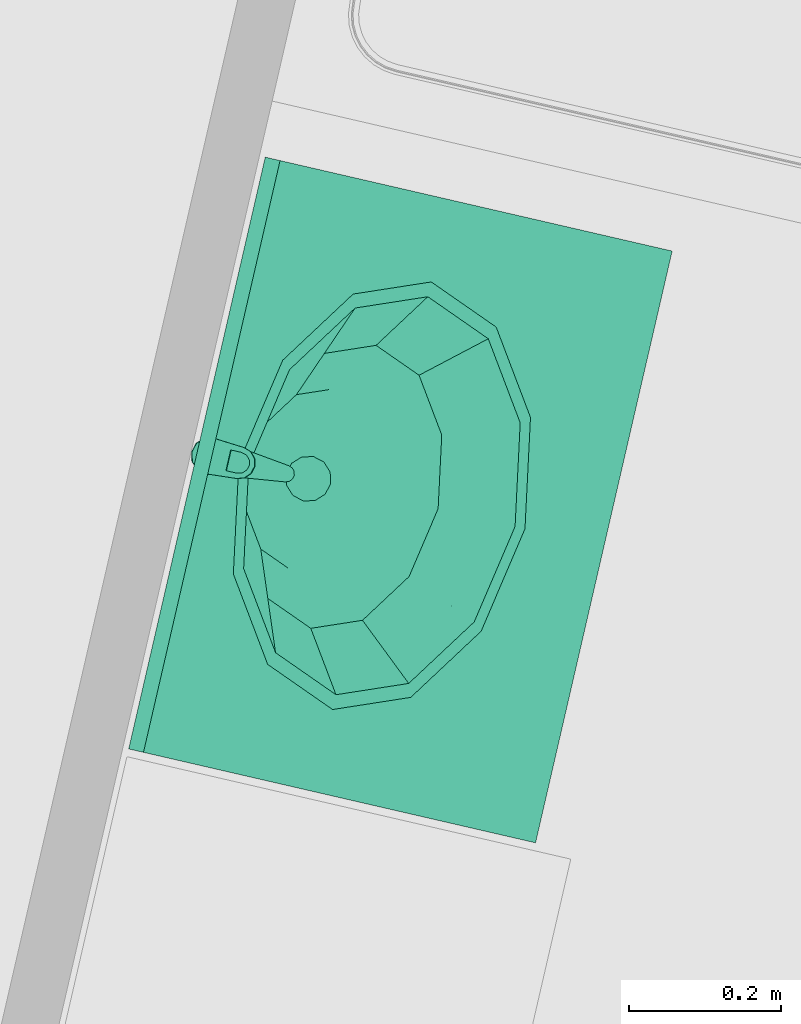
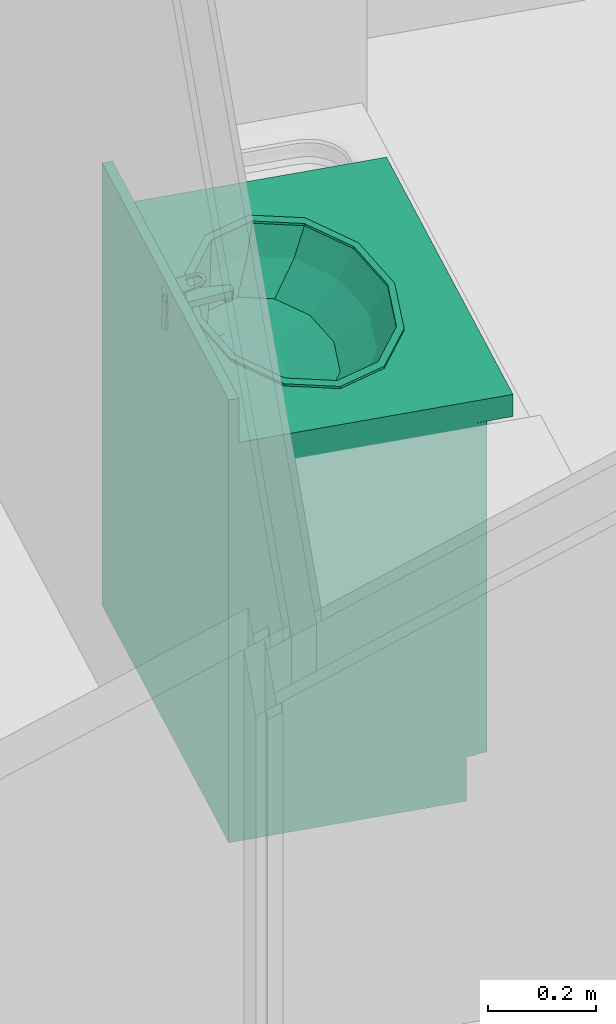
# One storey, part 73 of 90: 1 flow terminal.
"""IFC2X3 building model written with IfcOpenShell, lengths in metres."""

import ifcopenshell
import ifcopenshell.guid

model = None  # the IFC model being written
_history = None  # IfcOwnerHistory: only IFC2X3 demands one
_inside = {}  # id of a spatial element -> (the spatial element, [elements in it])
_under = {}  # id of a project, library or spatial element -> (it, [spatial elements below it])
_declared = {}  # id of a project -> (the project, [libraries it declares])
_typed = {}  # id of a type object -> (the type object, [elements of that type])
_made_of = {}  # id of a material, layer set ... -> (it, [elements and type objects made of it])


def new_model(schema):
    """Start an empty IFC model of exactly this schema.

    Asked for "IFC4X3", IfcOpenShell would pick the latest addendum, in which some entities
    have other attributes; the version numbers below select the first issue.
    IFC2X3 requires an IfcOwnerHistory on every rooted entity: one is made here for all.
    """
    global model, _history
    if schema == "IFC4X3":
        model = ifcopenshell.file(schema_version=(4, 3, 0, 0))
    else:
        model = ifcopenshell.file(schema=schema)
    _inside.clear()
    _under.clear()
    _declared.clear()
    _typed.clear()
    _made_of.clear()
    _history = None
    if model.schema == "IFC2X3":
        org = make("IfcOrganization", Name="unknown")
        user = make(
            "IfcPersonAndOrganization",
            ThePerson=make("IfcPerson", FamilyName="unknown"),
            TheOrganization=org,
        )
        app = make(
            "IfcApplication",
            ApplicationDeveloper=org,
            Version="unknown",
            ApplicationFullName="unknown",
            ApplicationIdentifier="unknown",
        )
        _history = make(
            "IfcOwnerHistory",
            OwningUser=user,
            OwningApplication=app,
            ChangeAction="ADDED",
            CreationDate=0,
        )
    return model


def make(cls, **values):
    """One entity of the class cls with the attributes given. An attribute that is None is left unset."""
    return model.create_entity(
        cls, **{name: value for name, value in values.items() if value is not None}
    )


def entity(cls, *values):
    """Any entity or typed value of the class cls, its attributes in the order of the schema. None: left unset."""
    e = model.create_entity(cls)
    for i, value in enumerate(values):
        if value is not None:
            e[i] = value
    return e


def rooted(cls, **values):
    """An entity with a GlobalId (a new one), such as an element, a storey or a relation."""
    return make(cls, GlobalId=ifcopenshell.guid.new(), OwnerHistory=_history, **values)


def si_unit(unit_type, name, prefix=None):
    """IfcSIUnit, for example si_unit("LENGTHUNIT", "METRE", prefix="MILLI")."""
    return make("IfcSIUnit", UnitType=unit_type, Prefix=prefix, Name=name)


def converted_unit(unit_type, name, factor, base, dimensions=None, offset=None):
    """IfcConversionBasedUnit, such as the inch: factor (a typed value) times the base unit."""
    return make(
        "IfcConversionBasedUnit"
        if offset is None
        else "IfcConversionBasedUnitWithOffset",
        ConversionOffset=offset,
        Dimensions=None
        if dimensions is None
        else entity("IfcDimensionalExponents", *dimensions),
        UnitType=unit_type,
        Name=name,
        ConversionFactor=make(
            "IfcMeasureWithUnit", ValueComponent=factor, UnitComponent=base
        ),
    )


def derived_unit(unit_type, elements):
    """IfcDerivedUnit: a product of units, each with its exponent."""
    return make(
        "IfcDerivedUnit",
        Elements=[
            make("IfcDerivedUnitElement", Unit=unit, Exponent=power)
            for unit, power in elements
        ],
        UnitType=unit_type,
    )


def money_unit(currency):
    """IfcMonetaryUnit."""
    return make("IfcMonetaryUnit", Currency=currency)


def assignment(units):
    """IfcUnitAssignment: the units of a project."""
    return None if units is None else make("IfcUnitAssignment", Units=units)


def point(xyz):
    """IfcCartesianPoint."""
    return None if xyz is None else make("IfcCartesianPoint", Coordinates=xyz)


def direction(xyz):
    """IfcDirection."""
    return None if xyz is None else make("IfcDirection", DirectionRatios=xyz)


def frame(location, z_axis=None, x_axis=None):
    """IfcAxis2Placement3D, a coordinate frame: its origin and axes. An axis left out is left unset."""
    return make(
        "IfcAxis2Placement3D",
        Location=point(location),
        Axis=direction(z_axis),
        RefDirection=direction(x_axis),
    )


def origin_with_axes():
    """The frame at (0, 0, 0) with the z axis (0, 0, 1) and the x axis (1, 0, 0) written out."""
    return frame((0.0, 0.0, 0.0), z_axis=(0.0, 0.0, 1.0), x_axis=(1.0, 0.0, 0.0))


def place(relative_to, where):
    """IfcLocalPlacement: puts the frame where relative to a parent placement (None: the world)."""
    return make(
        "IfcLocalPlacement", PlacementRelTo=relative_to, RelativePlacement=where
    )


def context(
    kind, dimensions, precision=None, world=None, true_north=None, identifier=None
):
    """IfcGeometricRepresentationContext, for example the 3D "Model" context."""
    return make(
        "IfcGeometricRepresentationContext",
        ContextIdentifier=identifier,
        ContextType=kind,
        CoordinateSpaceDimension=dimensions,
        Precision=precision,
        WorldCoordinateSystem=world,
        TrueNorth=true_north,
    )


def subcontext(parent, identifier, kind, view, scale=None):
    """IfcGeometricRepresentationSubContext, for example "Body" below "Model"."""
    return make(
        "IfcGeometricRepresentationSubContext",
        ContextIdentifier=identifier,
        ContextType=kind,
        ParentContext=parent,
        TargetScale=scale,
        TargetView=view,
    )


def project(units=None, contexts=None):
    """IfcProject with its units and contexts."""
    return rooted(
        "IfcProject",
        Name="project",
        RepresentationContexts=contexts,
        UnitsInContext=assignment(units),
    )


def spatial(cls, under=None, at=None, **own):
    """A site, building, storey or space (cls), placed at a placement, below another one or the project."""
    s = rooted(cls, ObjectPlacement=at, **own)
    if under is not None:
        _under.setdefault(under.id(), (under, []))[1].append(s)
    return s


def faces_of(points, faces, orient=None, outer=None):
    """IfcFace entities. A face is a list of loops; a loop is a list of indices into points, from 0.

    orient and outer hold one flag for each loop. By default every Orientation is true, the
    first loop of a face is its IfcFaceOuterBound and the others are IfcFaceBound.
    """
    made = []
    for i, loops in enumerate(faces):
        bounds = []
        for j, loop in enumerate(loops):
            is_outer = j == 0 if outer is None else outer[i][j]
            bounds.append(
                make(
                    "IfcFaceOuterBound" if is_outer else "IfcFaceBound",
                    Bound=make("IfcPolyLoop", Polygon=[points[k] for k in loop]),
                    Orientation=True if orient is None else orient[i][j],
                )
            )
        made.append(make("IfcFace", Bounds=bounds))
    return made


def open_shell(faces, orient=None, outer=None):
    """The faces of one IfcOpenShell. surface_model builds it on its shared points."""
    return ("IfcOpenShell", faces, orient, outer)


def faceted_brep(points, faces, orient=None, outer=None, voids=None):
    """IfcFacetedBrep: a solid bounded by flat faces; with voids (closed shells), ...WithVoids."""
    shared = [point(p) for p in points]
    hull = make("IfcClosedShell", CfsFaces=faces_of(shared, faces, orient, outer))
    if voids is None:
        return make("IfcFacetedBrep", Outer=hull)
    return make(
        "IfcFacetedBrepWithVoids",
        Outer=hull,
        Voids=[
            make(cls, CfsFaces=faces_of(shared, fs, o, b)) for cls, fs, o, b in voids
        ],
    )


def surface_model(cls, points, shells):
    """IfcFaceBasedSurfaceModel or IfcShellBasedSurfaceModel (cls): surfaces that need not close."""
    shared = [point(p) for p in points]
    made = [make(c, CfsFaces=faces_of(shared, fs, o, b)) for c, fs, o, b in shells]
    if cls == "IfcFaceBasedSurfaceModel":
        return make(cls, FbsmFaces=made)
    return make(cls, SbsmBoundary=made)


def shape(context_of_items, identifier, shape_type, items):
    """IfcShapeRepresentation: the items that make up one representation, for example the "Body"."""
    return make(
        "IfcShapeRepresentation",
        ContextOfItems=context_of_items,
        RepresentationIdentifier=identifier,
        RepresentationType=shape_type,
        Items=items,
    )


def source(mapping_origin, context_of_items, identifier, shape_type, items):
    """IfcRepresentationMap: a shape defined once, which mapped items show again and again."""
    return make(
        "IfcRepresentationMap",
        MappingOrigin=mapping_origin,
        MappedRepresentation=shape(context_of_items, identifier, shape_type, items),
    )


def transform(
    local_origin,
    x_axis=None,
    y_axis=None,
    z_axis=None,
    scale=None,
    scale2=None,
    scale3=None,
    uniform=True,
):
    """IfcCartesianTransformationOperator3D, or its non-uniform kind. x_axis, y_axis, z_axis: its Axis1, 2, 3."""
    if uniform:
        return make(
            "IfcCartesianTransformationOperator3D",
            Axis1=direction(x_axis),
            Axis2=direction(y_axis),
            LocalOrigin=point(local_origin),
            Scale=scale,
            Axis3=direction(z_axis),
        )
    return make(
        "IfcCartesianTransformationOperator3DnonUniform",
        Axis1=direction(x_axis),
        Axis2=direction(y_axis),
        LocalOrigin=point(local_origin),
        Scale=scale,
        Axis3=direction(z_axis),
        Scale2=scale2,
        Scale3=scale3,
    )


def mapped(mapping_source, mapping_target):
    """IfcMappedItem: shows the shape of a source again, moved by a transform."""
    return make(
        "IfcMappedItem", MappingSource=mapping_source, MappingTarget=mapping_target
    )


def made_of(thing, what):
    """Note that an element or type object is made of a material, layer set ...; save() writes the relation."""
    if what is not None:
        _made_of.setdefault(what.id(), (what, []))[1].append(thing)
    return thing


def type_object(cls, material=None, **own):
    """A type object (cls), such as IfcWallType, which elements share."""
    return made_of(rooted(cls, **own), material)


def element(
    cls,
    number,
    at=None,
    inside=None,
    cuts=None,
    type_object=None,
    material=None,
    context=None,
    identifier="Body",
    shape_type=None,
    held_by="IfcProductDefinitionShape",
    body=None,
    shapes=None,
    **own,
):
    """One element of the class cls, such as IfcWall. Its Tag is "e" and its number.

    at: its placement. inside: the storey or other place that contains it. cuts: it is an
    opening in that element (IfcRelVoidsElement). A single representation is given by context,
    identifier, shape_type and body (its items); several are given by shapes. held_by: the class
    of the entity that holds the representations. save() writes the other relations.
    """
    e = rooted(cls, Tag="e%d" % number, ObjectPlacement=at, **own)
    if body is not None:
        shapes = [shape(context, identifier, shape_type, body)]
    if shapes is not None:
        e.Representation = make(held_by, Representations=shapes)
    if inside is not None:
        _inside.setdefault(inside.id(), (inside, []))[1].append(e)
    if cuts is not None:
        rooted(
            "IfcRelVoidsElement", RelatingBuildingElement=cuts, RelatedOpeningElement=e
        )
    if type_object is not None:
        _typed.setdefault(type_object.id(), (type_object, []))[1].append(e)
    return made_of(e, material)


def aggregate(whole, parts):
    """IfcRelAggregates: a whole, such as a stair, and the parts it consists of."""
    return rooted("IfcRelAggregates", RelatingObject=whole, RelatedObjects=parts)


def save(model, path):
    """Write the relations noted so far, then the file.

    IfcRelAggregates (storeys below a building ...), IfcRelContainedInSpatialStructure (elements
    in a storey), IfcRelDefinesByType, IfcRelAssociatesMaterial and IfcRelDeclares: one each for
    every whole, place, type object, material and project.
    """
    for whole, parts in _under.values():
        aggregate(whole, parts)
    for where, things in _inside.values():
        rooted(
            "IfcRelContainedInSpatialStructure",
            RelatedElements=things,
            RelatingStructure=where,
        )
    for kind, things in _typed.values():
        rooted("IfcRelDefinesByType", RelatedObjects=things, RelatingType=kind)
    for what, things in _made_of.values():
        rooted("IfcRelAssociatesMaterial", RelatedObjects=things, RelatingMaterial=what)
    for by, libraries in _declared.values():
        rooted("IfcRelDeclares", RelatingContext=by, RelatedDefinitions=libraries)
    model.write(path)


model = new_model("IFC2X3")

# Units and contexts
model_context = context("Model", 3, precision=1e-05, world=origin_with_axes(), true_north=direction((0.0, 1.0)))
body_context = subcontext(model_context, "Body", "Model", "MODEL_VIEW")
ifc_project = project(units=[si_unit("LENGTHUNIT", "METRE"), si_unit("AREAUNIT", "SQUARE_METRE"), si_unit("VOLUMEUNIT", "CUBIC_METRE"), converted_unit("PLANEANGLEUNIT", "DEGREE", entity("IfcPlaneAngleMeasure", 0.0174532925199), si_unit("PLANEANGLEUNIT", "RADIAN"), dimensions=[0, 0, 0, 0, 0, 0, 0]), si_unit("SOLIDANGLEUNIT", "STERADIAN"), money_unit("EUR"), converted_unit("TIMEUNIT", "Year", entity("IfcTimeMeasure", 31556926.0), si_unit("TIMEUNIT", "SECOND"), dimensions=[0, 0, 1, 0, 0, 0, 0]), si_unit("MASSUNIT", "GRAM", prefix="KILO"), si_unit("THERMODYNAMICTEMPERATUREUNIT", "DEGREE_CELSIUS"), si_unit("LUMINOUSINTENSITYUNIT", "LUMEN"), si_unit("ENERGYUNIT", "JOULE", prefix="MEGA"), derived_unit("THERMALCONDUCTANCEUNIT", [(si_unit("POWERUNIT", "WATT"), 1), (si_unit("LENGTHUNIT", "METRE"), -1), (si_unit("THERMODYNAMICTEMPERATUREUNIT", "KELVIN"), -1)]), derived_unit("SPECIFICHEATCAPACITYUNIT", [(si_unit("ENERGYUNIT", "JOULE"), 1), (si_unit("MASSUNIT", "GRAM", prefix="KILO"), -1), (si_unit("THERMODYNAMICTEMPERATUREUNIT", "KELVIN"), -1)]), derived_unit("MASSDENSITYUNIT", [(si_unit("MASSUNIT", "GRAM", prefix="KILO"), 1), (si_unit("VOLUMEUNIT", "CUBIC_METRE"), -1)])], contexts=[model_context])

# Site, building, storey
site_placement = place(None, origin_with_axes())
site = spatial("IfcSite", under=ifc_project, at=site_placement, Name="Site", CompositionType="ELEMENT")
building_placement = place(site_placement, origin_with_axes())
building = spatial("IfcBuilding", under=site, at=building_placement, Name="Bâtiment", CompositionType="ELEMENT")
storey_placement = place(building_placement, frame((0.0, 0.0, 2.72), z_axis=(0.0, 0.0, 1.0), x_axis=(1.0, 0.0, 0.0)))
storey = spatial("IfcBuildingStorey", under=building, at=storey_placement, Name="R+1", CompositionType="ELEMENT", Elevation=2.72)

# Flow terminal
sanitary_terminal_type = type_object("IfcSanitaryTerminalType", Name="Lavabo sur meuble 23", PredefinedType="NOTDEFINED")
shared_shape = source(origin_with_axes(), body_context, "Body", "SurfaceModel", [
    faceted_brep([(0.0, 0.09, 0.0), (0.8, 0.09, 0.0), (0.8, 0.09, 0.1), (0.0, 0.09, 0.1), (0.0, 0.55, 0.0), (0.8, 0.55, 0.0), (0.8, 0.55, 0.1), (0.0, 0.55, 0.1)], [[[0, 1, 2, 3]], [[0, 4, 5, 1]], [[1, 5, 6, 2]], [[3, 2, 6, 7]], [[4, 0, 3, 7]], [[5, 4, 7, 6]]]),
    faceted_brep([(0.0, 0.07, 0.1), (0.02, 0.07, 0.1), (0.02, 0.07, 0.12), (0.0, 0.07, 0.12), (0.0, 0.55, 0.1), (0.02, 0.55, 0.1), (0.78, 0.55, 0.1), (0.8, 0.55, 0.1), (0.8, 0.07, 0.1), (0.78, 0.07, 0.1), (0.78, 0.07, 0.12), (0.8, 0.07, 0.12), (0.8, 0.55, 0.12), (0.78, 0.55, 0.12), (0.02, 0.55, 0.12), (0.0, 0.55, 0.12)], [[[0, 1, 2, 3]], [[0, 4, 5, 6, 7, 8, 9, 1]], [[1, 9, 10, 2]], [[3, 2, 10, 11, 12, 13, 14, 15]], [[4, 0, 3, 15]], [[5, 4, 15, 14]], [[6, 5, 14, 13]], [[7, 6, 13, 12]], [[8, 7, 12, 11]], [[9, 8, 11, 10]]]),
    faceted_brep([(0.0, 0.07, 0.12), (0.02, 0.07, 0.12), (0.02, 0.07, 0.85), (0.0, 0.07, 0.85), (0.0, 0.55, 0.12), (0.8, 0.55, 0.12), (0.8, 0.07, 0.12), (0.78, 0.07, 0.12), (0.78, 0.53, 0.12), (0.02, 0.53, 0.12), (0.02, 0.53, 0.85), (0.78, 0.53, 0.85), (0.78, 0.07, 0.85), (0.8, 0.07, 0.85), (0.8, 0.55, 0.85), (0.0, 0.55, 0.85)], [[[0, 1, 2, 3]], [[0, 4, 5, 6, 7, 8, 9, 1]], [[1, 9, 10, 2]], [[3, 2, 10, 11, 12, 13, 14, 15]], [[4, 0, 3, 15]], [[5, 4, 15, 14]], [[6, 5, 14, 13]], [[7, 6, 13, 12]], [[8, 7, 12, 11]], [[9, 8, 11, 10]]]),
    faceted_brep([(0.78, 0.07, 0.323333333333), (0.78, 0.53, 0.323333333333), (0.78, 0.53, 0.343333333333), (0.78, 0.07, 0.343333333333), (0.02, 0.07, 0.323333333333), (0.02, 0.53, 0.323333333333), (0.02, 0.53, 0.343333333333), (0.02, 0.07, 0.343333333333)], [[[0, 1, 2, 3]], [[0, 4, 5, 1]], [[1, 5, 6, 2]], [[3, 2, 6, 7]], [[4, 0, 3, 7]], [[5, 4, 7, 6]]]),
    faceted_brep([(0.78, 0.07, 0.566666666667), (0.78, 0.53, 0.566666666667), (0.78, 0.53, 0.586666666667), (0.78, 0.07, 0.586666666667), (0.02, 0.07, 0.566666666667), (0.02, 0.53, 0.566666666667), (0.02, 0.53, 0.586666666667), (0.02, 0.07, 0.586666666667)], [[[0, 1, 2, 3]], [[0, 4, 5, 1]], [[1, 5, 6, 2]], [[3, 2, 6, 7]], [[4, 0, 3, 7]], [[5, 4, 7, 6]]]),
    faceted_brep([(0.0, 0.55, 0.85), (0.8, 0.55, 0.85), (0.8, 0.0, 0.85), (0.0, 0.0, 0.85), (0.535, 0.144115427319, 0.85), (0.633826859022, 0.21, 0.85), (0.67, 0.3, 0.85), (0.633826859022, 0.39, 0.85), (0.535, 0.455884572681, 0.85), (0.4, 0.48, 0.85), (0.265, 0.455884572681, 0.85), (0.166173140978, 0.39, 0.85), (0.13, 0.3, 0.85), (0.166173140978, 0.21, 0.85), (0.265, 0.144115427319, 0.85), (0.4, 0.12, 0.85), (0.0, 0.55, 0.9), (0.8, 0.55, 0.9), (0.8, 0.0, 0.9), (0.0, 0.0, 0.9), (0.535, 0.144115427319, 0.9), (0.633826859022, 0.21, 0.9), (0.67, 0.3, 0.9), (0.633826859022, 0.39, 0.9), (0.535, 0.455884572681, 0.9), (0.4, 0.48, 0.9), (0.265, 0.455884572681, 0.9), (0.166173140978, 0.39, 0.9), (0.13, 0.3, 0.9), (0.166173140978, 0.21, 0.9), (0.265, 0.144115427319, 0.9), (0.4, 0.12, 0.9)], [[[0, 1, 2, 3], [4, 5, 6, 7, 8, 9, 10, 11, 12, 13, 14, 15]], [[0, 16, 17, 1]], [[1, 17, 18, 2]], [[2, 18, 19, 3]], [[3, 19, 16, 0]], [[20, 21, 5, 4]], [[21, 22, 6, 5]], [[22, 23, 7, 6]], [[23, 24, 8, 7]], [[24, 25, 9, 8]], [[25, 26, 10, 9]], [[26, 27, 11, 10]], [[27, 28, 12, 11]], [[28, 29, 13, 12]], [[29, 30, 14, 13]], [[30, 31, 15, 14]], [[31, 20, 4, 15]], [[18, 17, 16, 19], [24, 23, 22, 21, 20, 31, 30, 29, 28, 27, 26, 25]]]),
    faceted_brep([(0.0, 0.53, 0.9), (0.8, 0.53, 0.9), (0.8, 0.53, 1.0), (0.0, 0.53, 1.0), (0.0, 0.55, 0.9), (0.8, 0.55, 0.9), (0.8, 0.55, 1.0), (0.0, 0.55, 1.0)], [[[0, 1, 2, 3]], [[0, 4, 5, 1]], [[1, 5, 6, 2]], [[3, 2, 6, 7]], [[4, 0, 3, 7]], [[5, 4, 7, 6]]]),
    faceted_brep([(0.689, 0.3, 0.905), (0.689, 0.3, 0.9), (0.650281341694, 0.396691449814, 0.9), (0.650281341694, 0.396691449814, 0.905), (0.650281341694, 0.203308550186, 0.905), (0.650281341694, 0.203308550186, 0.9), (0.5445, 0.132525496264, 0.9), (0.4, 0.106617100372, 0.9), (0.2555, 0.132525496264, 0.9), (0.149718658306, 0.203308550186, 0.9), (0.111, 0.3, 0.9), (0.149718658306, 0.396691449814, 0.9), (0.2555, 0.467474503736, 0.9), (0.4, 0.493382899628, 0.9), (0.5445, 0.467474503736, 0.9), (0.669, 0.3, 0.9), (0.632960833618, 0.39, 0.9), (0.5345, 0.455884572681, 0.9), (0.4, 0.48, 0.9), (0.2655, 0.455884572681, 0.9), (0.167039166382, 0.39, 0.9), (0.131, 0.3, 0.9), (0.167039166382, 0.21, 0.9), (0.2655, 0.144115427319, 0.9), (0.4, 0.12, 0.9), (0.5345, 0.144115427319, 0.9), (0.632960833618, 0.21, 0.9), (0.5445, 0.467474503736, 0.905), (0.4, 0.493382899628, 0.905), (0.2555, 0.467474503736, 0.905), (0.149718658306, 0.396691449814, 0.905), (0.111, 0.3, 0.905), (0.149718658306, 0.203308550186, 0.905), (0.2555, 0.132525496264, 0.905), (0.4, 0.106617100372, 0.905), (0.5445, 0.132525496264, 0.905), (0.669, 0.3, 0.905), (0.632960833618, 0.21, 0.905), (0.5345, 0.144115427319, 0.905), (0.4, 0.12, 0.905), (0.2655, 0.144115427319, 0.905), (0.167039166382, 0.21, 0.905), (0.131, 0.3, 0.905), (0.167039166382, 0.39, 0.905), (0.2655, 0.455884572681, 0.905), (0.4, 0.48, 0.905), (0.5345, 0.455884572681, 0.905), (0.632960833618, 0.39, 0.905)], [[[0, 1, 2, 3]], [[4, 5, 1, 0]], [[1, 5, 6, 7, 8, 9, 10, 11, 12, 13, 14, 2], [15, 16, 17, 18, 19, 20, 21, 22, 23, 24, 25, 26]], [[3, 2, 14, 27]], [[0, 3, 27, 28, 29, 30, 31, 32, 33, 34, 35, 4], [36, 37, 38, 39, 40, 41, 42, 43, 44, 45, 46, 47]], [[35, 6, 5, 4]], [[34, 7, 6, 35]], [[33, 8, 7, 34]], [[32, 9, 8, 33]], [[31, 10, 9, 32]], [[30, 11, 10, 31]], [[29, 12, 11, 30]], [[28, 13, 12, 29]], [[27, 14, 13, 28]], [[47, 16, 15, 36]], [[46, 17, 16, 47]], [[45, 18, 17, 46]], [[44, 19, 18, 45]], [[43, 20, 19, 44]], [[42, 21, 20, 43]], [[41, 22, 21, 42]], [[40, 23, 22, 41]], [[39, 24, 23, 40]], [[38, 25, 24, 39]], [[37, 26, 25, 38]], [[36, 15, 26, 37]]]),
    surface_model("IfcShellBasedSurfaceModel", [(0.4, 0.48, 0.9), (0.4, 0.48, 0.848), (0.52105, 0.458296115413, 0.848), (0.5345, 0.455884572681, 0.9), (0.2655, 0.455884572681, 0.9), (0.27895, 0.458296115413, 0.848), (0.609664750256, 0.399, 0.848), (0.632960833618, 0.39, 0.9), (0.167039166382, 0.39, 0.9), (0.190335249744, 0.399, 0.848), (0.6421, 0.318, 0.848), (0.669, 0.3, 0.9), (0.131, 0.3, 0.9), (0.1579, 0.318, 0.848), (0.609664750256, 0.237, 0.848), (0.632960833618, 0.21, 0.9), (0.167039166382, 0.21, 0.9), (0.190335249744, 0.237, 0.848), (0.52105, 0.177703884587, 0.848), (0.5345, 0.144115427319, 0.9), (0.2655, 0.144115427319, 0.9), (0.27895, 0.177703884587, 0.848), (0.4, 0.156, 0.848), (0.4, 0.12, 0.9)], [open_shell([[[0, 1, 2, 3]], [[4, 5, 1, 0]], [[3, 2, 6, 7]], [[8, 9, 5, 4]], [[7, 6, 10, 11]], [[12, 13, 9, 8]], [[11, 10, 14, 15]], [[16, 17, 13, 12]], [[15, 14, 18, 19]], [[20, 21, 17, 16]], [[19, 18, 22, 23]], [[23, 22, 21, 20]]])]),
    surface_model("IfcShellBasedSurfaceModel", [(0.4, 0.48, 0.848), (0.4, 0.48, 0.796), (0.4956295, 0.462853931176, 0.796), (0.52105, 0.458296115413, 0.848), (0.27895, 0.458296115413, 0.848), (0.3043705, 0.462853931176, 0.796), (0.565635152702, 0.41601, 0.796), (0.609664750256, 0.399, 0.848), (0.190335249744, 0.399, 0.848), (0.234364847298, 0.41601, 0.796), (0.591259, 0.35202, 0.796), (0.6421, 0.318, 0.848), (0.1579, 0.318, 0.848), (0.208741, 0.35202, 0.796), (0.565635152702, 0.28803, 0.796), (0.609664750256, 0.237, 0.848), (0.190335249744, 0.237, 0.848), (0.234364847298, 0.28803, 0.796), (0.4956295, 0.241186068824, 0.796), (0.52105, 0.177703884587, 0.848), (0.27895, 0.177703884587, 0.848), (0.3043705, 0.241186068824, 0.796), (0.4, 0.22404, 0.796), (0.4, 0.156, 0.848)], [open_shell([[[0, 1, 2, 3]], [[4, 5, 1, 0]], [[3, 2, 6, 7]], [[8, 9, 5, 4]], [[7, 6, 10, 11]], [[12, 13, 9, 8]], [[11, 10, 14, 15]], [[16, 17, 13, 12]], [[15, 14, 18, 19]], [[20, 21, 17, 16]], [[19, 18, 22, 23]], [[23, 22, 21, 20]]])]),
    surface_model("IfcShellBasedSurfaceModel", [(0.4, 0.48, 0.796), (0.4, 0.48, 0.77), (0.460246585, 0.469197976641, 0.77), (0.4956295, 0.462853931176, 0.796), (0.3043705, 0.462853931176, 0.796), (0.339753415, 0.469197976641, 0.77), (0.504350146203, 0.4396863, 0.77), (0.565635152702, 0.41601, 0.796), (0.234364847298, 0.41601, 0.796), (0.295649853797, 0.4396863, 0.77), (0.52049317, 0.3993726, 0.77), (0.591259, 0.35202, 0.796), (0.208741, 0.35202, 0.796), (0.27950683, 0.3993726, 0.77), (0.504350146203, 0.3590589, 0.77), (0.565635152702, 0.28803, 0.796), (0.234364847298, 0.28803, 0.796), (0.295649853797, 0.3590589, 0.77), (0.460246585, 0.329547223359, 0.77), (0.4956295, 0.241186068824, 0.796), (0.3043705, 0.241186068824, 0.796), (0.339753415, 0.329547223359, 0.77), (0.4, 0.3187452, 0.77), (0.4, 0.22404, 0.796)], [open_shell([[[0, 1, 2, 3]], [[4, 5, 1, 0]], [[3, 2, 6, 7]], [[8, 9, 5, 4]], [[7, 6, 10, 11]], [[12, 13, 9, 8]], [[11, 10, 14, 15]], [[16, 17, 13, 12]], [[15, 14, 18, 19]], [[20, 21, 17, 16]], [[19, 18, 22, 23]], [[23, 22, 21, 20]]])]),
    surface_model("IfcShellBasedSurfaceModel", [(0.4, 0.48, 0.77), (0.415, 0.425353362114, 0.763), (0.460246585, 0.469197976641, 0.77), (0.4, 0.4293726, 0.763), (0.425980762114, 0.4143726, 0.763), (0.339753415, 0.469197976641, 0.77), (0.504350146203, 0.4396863, 0.77), (0.385, 0.425353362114, 0.763), (0.43, 0.3993726, 0.763), (0.295649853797, 0.4396863, 0.77), (0.52049317, 0.3993726, 0.77), (0.374019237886, 0.4143726, 0.763), (0.425980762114, 0.3843726, 0.763), (0.27950683, 0.3993726, 0.77), (0.504350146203, 0.3590589, 0.77), (0.37, 0.3993726, 0.763), (0.415, 0.373391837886, 0.763), (0.295649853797, 0.3590589, 0.77), (0.460246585, 0.329547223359, 0.77), (0.374019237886, 0.3843726, 0.763), (0.4, 0.3693726, 0.763), (0.339753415, 0.329547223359, 0.77), (0.4, 0.3187452, 0.77), (0.385, 0.373391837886, 0.763)], [open_shell([[[0, 1, 2]], [[0, 3, 1]], [[2, 1, 4]], [[5, 3, 0]], [[2, 4, 6]], [[5, 7, 3]], [[6, 4, 8]], [[9, 7, 5]], [[6, 8, 10]], [[9, 11, 7]], [[10, 8, 12]], [[13, 11, 9]], [[10, 12, 14]], [[13, 15, 11]], [[14, 12, 16]], [[17, 15, 13]], [[14, 16, 18]], [[17, 19, 15]], [[18, 16, 20]], [[21, 19, 17]], [[18, 20, 22]], [[21, 23, 19]], [[22, 20, 23]], [[22, 23, 21]]])]),
    surface_model("IfcShellBasedSurfaceModel", [(0.43, 0.3993726, 0.763), (0.43, 0.3993726, 0.758), (0.425980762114, 0.4143726, 0.758), (0.425980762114, 0.4143726, 0.763), (0.425980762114, 0.3843726, 0.763), (0.425980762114, 0.3843726, 0.758), (0.415, 0.373391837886, 0.758), (0.4, 0.3693726, 0.758), (0.385, 0.373391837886, 0.758), (0.374019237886, 0.3843726, 0.758), (0.37, 0.3993726, 0.758), (0.374019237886, 0.4143726, 0.758), (0.385, 0.425353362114, 0.758), (0.4, 0.4293726, 0.758), (0.415, 0.425353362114, 0.758), (0.415, 0.425353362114, 0.763), (0.415, 0.373391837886, 0.763), (0.4, 0.3693726, 0.763), (0.385, 0.373391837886, 0.763), (0.374019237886, 0.3843726, 0.763), (0.37, 0.3993726, 0.763), (0.374019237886, 0.4143726, 0.763), (0.385, 0.425353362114, 0.763), (0.4, 0.4293726, 0.763)], [open_shell([[[0, 1, 2, 3]], [[4, 5, 1, 0]], [[1, 5, 6, 7, 8, 9, 10, 11, 12, 13, 14, 2]], [[3, 2, 14, 15]], [[16, 6, 5, 4]], [[17, 7, 6, 16]], [[18, 8, 7, 17]], [[19, 9, 8, 18]], [[20, 10, 9, 19]], [[21, 11, 10, 20]], [[22, 12, 11, 21]], [[23, 13, 12, 22]], [[15, 14, 13, 23]]])]),
    faceted_brep([(0.4125, 0.554150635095, 0.9), (0.4, 0.5575, 0.9), (0.4, 0.553701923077, 0.975961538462), (0.410587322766, 0.550837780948, 0.976507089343), (0.421650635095, 0.545, 0.9), (0.425, 0.5325, 0.9), (0.421650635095, 0.52, 0.9), (0.4125, 0.510849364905, 0.9), (0.4, 0.5075, 0.9), (0.3875, 0.510849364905, 0.9), (0.378349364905, 0.52, 0.9), (0.375, 0.5325, 0.9), (0.378349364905, 0.545, 0.9), (0.3875, 0.554150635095, 0.9), (0.389412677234, 0.550837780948, 0.976507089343), (0.381726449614, 0.543050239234, 0.977990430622), (0.379, 0.5325, 0.98), (0.381899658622, 0.522049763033, 0.981990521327), (0.389585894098, 0.514462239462, 0.983435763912), (0.4, 0.511698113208, 0.983962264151), (0.410414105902, 0.514462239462, 0.983435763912), (0.418100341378, 0.522049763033, 0.981990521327), (0.421, 0.5325, 0.98), (0.418273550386, 0.543050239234, 0.977990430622)], [[[0, 1, 2, 3]], [[0, 4, 5, 6, 7, 8, 9, 10, 11, 12, 13, 1]], [[1, 13, 14, 2]], [[3, 2, 14, 15, 16, 17, 18, 19, 20, 21, 22, 23]], [[4, 0, 3, 23]], [[5, 4, 23, 22]], [[6, 5, 22, 21]], [[7, 6, 21, 20]], [[8, 7, 20, 19]], [[9, 8, 19, 18]], [[10, 9, 18, 17]], [[11, 10, 17, 16]], [[12, 11, 16, 15]], [[13, 12, 15, 14]]]),
    faceted_brep([(0.409, 0.4295, 0.935), (0.407794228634, 0.434, 0.935), (0.407794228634, 0.434, 0.945), (0.409, 0.4295, 0.945), (0.407794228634, 0.425, 0.935), (0.4045, 0.421705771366, 0.935), (0.4, 0.4205, 0.935), (0.3955, 0.421705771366, 0.935), (0.392205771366, 0.425, 0.935), (0.391, 0.4295, 0.935), (0.392205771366, 0.434, 0.935), (0.3955, 0.437294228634, 0.935), (0.4, 0.4385, 0.935), (0.4045, 0.437294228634, 0.935), (0.4045, 0.437294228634, 0.945), (0.4, 0.4385, 0.945), (0.3955, 0.437294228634, 0.945), (0.392205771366, 0.434, 0.945), (0.391, 0.4295, 0.945), (0.392205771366, 0.425, 0.945), (0.3955, 0.421705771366, 0.945), (0.4, 0.4205, 0.945), (0.4045, 0.421705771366, 0.945), (0.407794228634, 0.425, 0.945)], [[[0, 1, 2, 3]], [[0, 4, 5, 6, 7, 8, 9, 10, 11, 12, 13, 1]], [[1, 13, 14, 2]], [[3, 2, 14, 15, 16, 17, 18, 19, 20, 21, 22, 23]], [[4, 0, 3, 23]], [[5, 4, 23, 22]], [[6, 5, 22, 21]], [[7, 6, 21, 20]], [[8, 7, 20, 19]], [[9, 8, 19, 18]], [[10, 9, 18, 17]], [[11, 10, 17, 16]], [[12, 11, 16, 15]], [[13, 12, 15, 14]]]),
    faceted_brep([(0.387128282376, 0.552756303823, 0.96), (0.378272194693, 0.54269320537, 0.96), (0.3761946, 0.5294501, 0.96), (0.389088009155, 0.428111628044, 0.96), (0.390971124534, 0.423216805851, 0.96), (0.394906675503, 0.419750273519, 0.96), (0.400000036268, 0.41850003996, 0.96), (0.405093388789, 0.419750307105, 0.96), (0.409028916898, 0.423216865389, 0.96), (0.410912, 0.4281117, 0.96), (0.423805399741, 0.529450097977, 0.96), (0.421727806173, 0.542693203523, 0.96), (0.412871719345, 0.552756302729, 0.96), (0.40000000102, 0.556499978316, 0.96), (0.411, 0.551552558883, 0.96), (0.419052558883, 0.5435, 0.96), (0.422, 0.5325, 0.96), (0.419052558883, 0.5215, 0.96), (0.411, 0.513447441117, 0.96), (0.4, 0.5105, 0.96), (0.389, 0.513447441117, 0.96), (0.380947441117, 0.5215, 0.96), (0.378, 0.5325, 0.96), (0.380947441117, 0.5435, 0.96), (0.389, 0.551552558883, 0.96), (0.4, 0.5545, 0.96), (0.378272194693, 0.54269320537, 0.945), (0.387128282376, 0.552756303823, 0.945), (0.3761946, 0.5294501, 0.945), (0.389088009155, 0.428111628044, 0.945), (0.390971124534, 0.423216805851, 0.945), (0.394906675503, 0.419750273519, 0.945), (0.400000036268, 0.41850003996, 0.945), (0.405093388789, 0.419750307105, 0.945), (0.409028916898, 0.423216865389, 0.945), (0.410912, 0.4281117, 0.945), (0.423805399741, 0.529450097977, 0.945), (0.421727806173, 0.542693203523, 0.945), (0.412871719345, 0.552756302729, 0.945), (0.40000000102, 0.556499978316, 0.945), (0.411375, 0.552202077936, 0.945), (0.419702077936, 0.543875, 0.945), (0.42275, 0.5325, 0.945), (0.419702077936, 0.521125, 0.945), (0.411375, 0.512797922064, 0.945), (0.4, 0.50975, 0.945), (0.388625, 0.512797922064, 0.945), (0.380297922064, 0.521125, 0.945), (0.37725, 0.5325, 0.945), (0.380297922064, 0.543875, 0.945), (0.388625, 0.552202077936, 0.945), (0.4, 0.55525, 0.945)], [[[0, 1, 2, 3, 4, 5, 6, 7, 8, 9, 10, 11, 12, 13], [14, 15, 16, 17, 18, 19, 20, 21, 22, 23, 24, 25]], [[26, 1, 0, 27]], [[28, 2, 1, 26]], [[29, 3, 2, 28]], [[30, 4, 3, 29]], [[31, 5, 4, 30]], [[32, 6, 5, 31]], [[33, 7, 6, 32]], [[34, 8, 7, 33]], [[35, 9, 8, 34]], [[36, 10, 9, 35]], [[37, 11, 10, 36]], [[38, 12, 11, 37]], [[39, 13, 12, 38]], [[27, 0, 13, 39]], [[40, 41, 15, 14]], [[41, 42, 16, 15]], [[42, 43, 17, 16]], [[43, 44, 18, 17]], [[44, 45, 19, 18]], [[20, 19, 45, 46]], [[21, 20, 46, 47]], [[22, 21, 47, 48]], [[23, 22, 48, 49]], [[24, 23, 49, 50]], [[50, 51, 25, 24]], [[51, 40, 14, 25]], [[32, 31, 30, 29, 28, 26, 27, 39, 38, 37, 36, 35, 34, 33], [44, 43, 42, 41, 40, 51, 50, 49, 48, 47, 46, 45]]]),
    faceted_brep([(0.423893, 0.53080743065, 0.980322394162), (0.421296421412, 0.543274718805, 0.977947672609), (0.421296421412, 0.544023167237, 0.981877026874), (0.423893, 0.531555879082, 0.984251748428), (0.420945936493, 0.490663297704, 0.987968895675), (0.417663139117, 0.480985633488, 0.989812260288), (0.410061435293, 0.474036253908, 0.991135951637), (0.399999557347, 0.47151438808, 0.991616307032), (0.389937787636, 0.474036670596, 0.991135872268), (0.382336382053, 0.480986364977, 0.989812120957), (0.379054, 0.490664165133, 0.987968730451), (0.376106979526, 0.530807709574, 0.980322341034), (0.378703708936, 0.543274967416, 0.977947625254), (0.38752831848, 0.552591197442, 0.976173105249), (0.400000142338, 0.556031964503, 0.975517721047), (0.41247192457, 0.552591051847, 0.976173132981), (0.414, 0.506959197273, 0.984864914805), (0.386, 0.506959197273, 0.984864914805), (0.386, 0.492143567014, 0.987686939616), (0.387875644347, 0.485267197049, 0.988996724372), (0.393, 0.480233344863, 0.989955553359), (0.4, 0.478390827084, 0.990306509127), (0.407, 0.480233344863, 0.989955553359), (0.412124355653, 0.485267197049, 0.988996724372), (0.414, 0.492143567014, 0.987686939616), (0.41247192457, 0.553339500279, 0.980102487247), (0.400000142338, 0.556780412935, 0.979447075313), (0.38752831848, 0.553339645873, 0.980102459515), (0.378703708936, 0.544023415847, 0.98187697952), (0.376106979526, 0.531556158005, 0.984251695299), (0.379054, 0.491412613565, 0.991898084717), (0.382336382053, 0.481734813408, 0.993741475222), (0.389937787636, 0.474785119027, 0.995065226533), (0.399999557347, 0.472262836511, 0.995545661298), (0.410061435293, 0.47478470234, 0.995065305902), (0.417663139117, 0.48173408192, 0.993741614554), (0.420945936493, 0.491411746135, 0.991898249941), (0.414, 0.507707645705, 0.988794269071), (0.414, 0.492892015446, 0.991616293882), (0.412124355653, 0.486015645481, 0.992926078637), (0.407, 0.480981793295, 0.993884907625), (0.4, 0.479139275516, 0.994235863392), (0.393, 0.480981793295, 0.993884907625), (0.387875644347, 0.486015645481, 0.992926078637), (0.386, 0.492892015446, 0.991616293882), (0.386, 0.507707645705, 0.988794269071)], [[[0, 1, 2, 3]], [[0, 4, 5, 6, 7, 8, 9, 10, 11, 12, 13, 14, 15, 1], [16, 17, 18, 19, 20, 21, 22, 23, 24]], [[1, 15, 25, 2]], [[3, 2, 25, 26, 27, 28, 29, 30, 31, 32, 33, 34, 35, 36], [37, 38, 39, 40, 41, 42, 43, 44, 45]], [[4, 0, 3, 36]], [[5, 4, 36, 35]], [[6, 5, 35, 34]], [[7, 6, 34, 33]], [[8, 7, 33, 32]], [[9, 8, 32, 31]], [[10, 9, 31, 30]], [[11, 10, 30, 29]], [[12, 11, 29, 28]], [[13, 12, 28, 27]], [[14, 13, 27, 26]], [[15, 14, 26, 25]], [[17, 16, 37, 45]], [[18, 17, 45, 44]], [[19, 18, 44, 43]], [[20, 19, 43, 42]], [[21, 20, 42, 41]], [[22, 21, 41, 40]], [[23, 22, 40, 39]], [[24, 23, 39, 38]], [[16, 24, 38, 37]]]),
    faceted_brep([(0.0015, 0.07, 0.1015), (0.3985, 0.07, 0.1015), (0.3985, 0.05, 0.1015), (0.0015, 0.05, 0.1015), (0.0015, 0.07, 0.8485), (0.3985, 0.07, 0.8485), (0.3985, 0.05, 0.8485), (0.0015, 0.05, 0.8485)], [[[0, 1, 2, 3]], [[0, 4, 5, 1]], [[1, 5, 6, 2]], [[3, 2, 6, 7]], [[4, 0, 3, 7]], [[5, 4, 7, 6]]]),
    faceted_brep([(0.358892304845, 0.05, 0.7855), (0.3545, 0.05, 0.781107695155), (0.3485, 0.05, 0.7795), (0.3425, 0.05, 0.781107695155), (0.338107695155, 0.05, 0.7855), (0.3365, 0.05, 0.7915), (0.338107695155, 0.05, 0.7975), (0.3425, 0.05, 0.801892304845), (0.3485, 0.05, 0.8035), (0.3545, 0.05, 0.801892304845), (0.358892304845, 0.05, 0.7975), (0.3605, 0.05, 0.7915), (0.358892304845, 0.025, 0.7855), (0.3545, 0.025, 0.781107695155), (0.3485, 0.025, 0.7795), (0.3425, 0.025, 0.781107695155), (0.338107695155, 0.025, 0.7855), (0.3365, 0.025, 0.7915), (0.338107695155, 0.025, 0.7975), (0.3425, 0.025, 0.801892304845), (0.3485, 0.025, 0.8035), (0.3545, 0.025, 0.801892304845), (0.358892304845, 0.025, 0.7975), (0.3605, 0.025, 0.7915)], [[[0, 1, 2, 3, 4, 5, 6, 7, 8, 9, 10, 11]], [[1, 0, 12, 13]], [[2, 1, 13, 14]], [[3, 2, 14, 15]], [[4, 3, 15, 16]], [[5, 4, 16, 17]], [[6, 5, 17, 18]], [[7, 6, 18, 19]], [[8, 7, 19, 20]], [[9, 8, 20, 21]], [[10, 9, 21, 22]], [[11, 10, 22, 23]], [[0, 11, 23, 12]], [[12, 23, 22, 21, 20, 19, 18, 17, 16, 15, 14, 13]]]),
    faceted_brep([(0.7985, 0.07, 0.1015), (0.7985, 0.05, 0.1015), (0.4015, 0.05, 0.1015), (0.4015, 0.07, 0.1015), (0.7985, 0.07, 0.8485), (0.7985, 0.05, 0.8485), (0.4015, 0.05, 0.8485), (0.4015, 0.07, 0.8485)], [[[0, 1, 2, 3]], [[4, 5, 1, 0]], [[1, 5, 6, 2]], [[3, 2, 6, 7]], [[0, 3, 7, 4]], [[7, 6, 5, 4]]]),
    faceted_brep([(0.441107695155, 0.05, 0.7855), (0.4395, 0.05, 0.7915), (0.441107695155, 0.05, 0.7975), (0.4455, 0.05, 0.801892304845), (0.4515, 0.05, 0.8035), (0.4575, 0.05, 0.801892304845), (0.461892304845, 0.05, 0.7975), (0.4635, 0.05, 0.7915), (0.461892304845, 0.05, 0.7855), (0.4575, 0.05, 0.781107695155), (0.4515, 0.05, 0.7795), (0.4455, 0.05, 0.781107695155), (0.441107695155, 0.025, 0.7855), (0.4395, 0.025, 0.7915), (0.441107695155, 0.025, 0.7975), (0.4455, 0.025, 0.801892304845), (0.4515, 0.025, 0.8035), (0.4575, 0.025, 0.801892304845), (0.461892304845, 0.025, 0.7975), (0.4635, 0.025, 0.7915), (0.461892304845, 0.025, 0.7855), (0.4575, 0.025, 0.781107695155), (0.4515, 0.025, 0.7795), (0.4455, 0.025, 0.781107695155)], [[[0, 1, 2, 3, 4, 5, 6, 7, 8, 9, 10, 11]], [[0, 12, 13, 1]], [[1, 13, 14, 2]], [[2, 14, 15, 3]], [[3, 15, 16, 4]], [[4, 16, 17, 5]], [[5, 17, 18, 6]], [[6, 18, 19, 7]], [[7, 19, 20, 8]], [[8, 20, 21, 9]], [[9, 21, 22, 10]], [[10, 22, 23, 11]], [[11, 23, 12, 0]], [[12, 23, 22, 21, 20, 19, 18, 17, 16, 15, 14, 13]]]),
])
flow_terminal_placement = place(storey_placement, frame((-14.8850742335, -9.44738149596, 0.0), z_axis=(0.0, 0.0, 1.0), x_axis=(0.224876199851, 0.974387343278, 0.0)))
element("IfcFlowTerminal", 1, at=flow_terminal_placement, inside=storey, type_object=sanitary_terminal_type, Name="MOB-002", ObjectType="SANITARY_TERMINAL", context=body_context, shape_type="MappedRepresentation", body=[
    mapped(shared_shape, transform((0.0, 0.0, 0.0))),
])

save(model, "model.ifc")
